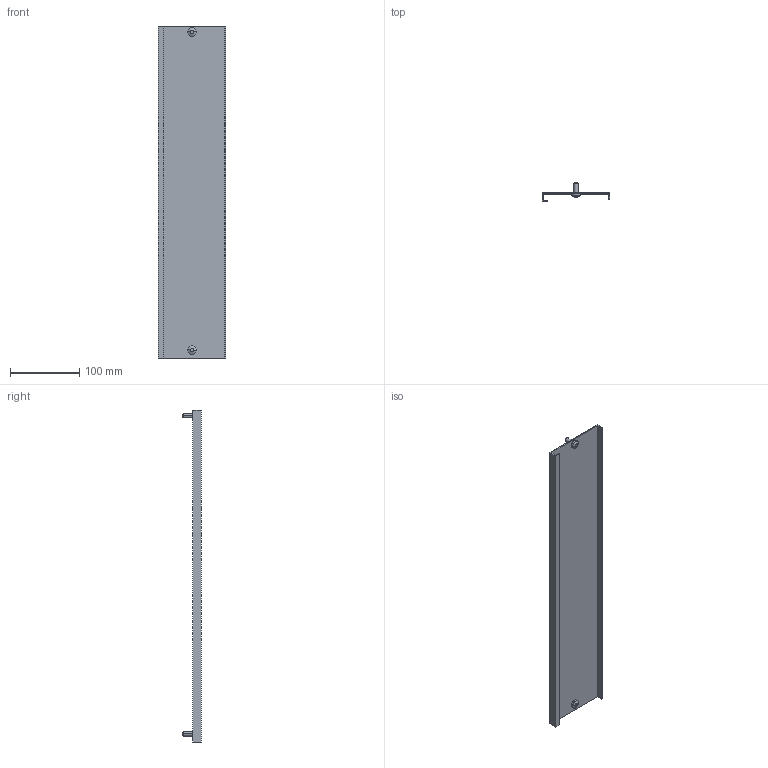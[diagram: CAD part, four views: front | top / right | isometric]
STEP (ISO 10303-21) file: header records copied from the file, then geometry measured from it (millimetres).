
FILE_DESCRIPTION (( 'STEP AP214' ), '1' );
FILE_NAME ('FO-00-PVS-010-060 Ïëàñòðîí ãëóõîé âíóòðåííèé 100õ600.STEP', '2025-09-29T19:51:42', ( '' ), ( '' ), 'SwSTEP 2.0', 'SolidWorks 2023', '' );
FILE_SCHEMA (( 'AUTOMOTIVE_DESIGN' ));
Length unit declared in the file: millimetre
Products named in the file (3): FO-00-PVS-010-060 Пластрон глухой внутренний 100х600; Винт М6х16 IEK
Assembly tree (3 placements, depth 2):
  FO-00-PVS-010-060 Пластрон глухой внутренний 100х600
    FO-00-PVS-010-060 Пластрон глухой внутренний 100х600
    Винт М6х16 IEK  x2
Bounding box: 98 x 27 x 479 mm (x, y, z)
Volume: 90516.3 mm3; surface area: 121792.2 mm2
Topology: 3 solids, 3 shells, 86 faces, 226 edges, 148 vertices
Faces by surface type: cylinder 44, plane 32, cone 6, bspline 4
Entity records: 2002 total; most frequent: CARTESIAN_POINT 426, ORIENTED_EDGE 316, DIRECTION 308, EDGE_CURVE 158, VERTEX_POINT 104, AXIS2_PLACEMENT_3D 104, LINE 100, VECTOR 100
